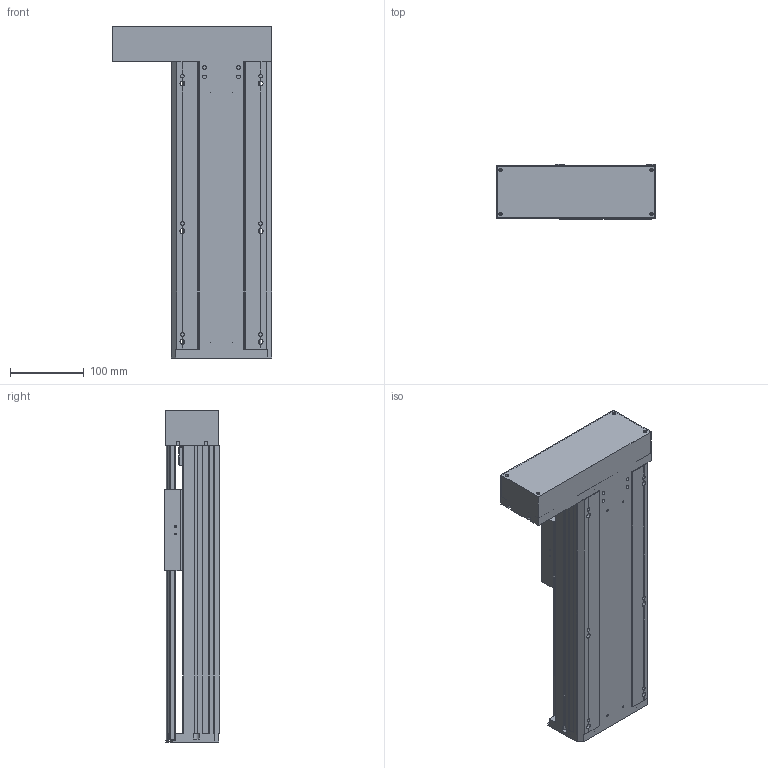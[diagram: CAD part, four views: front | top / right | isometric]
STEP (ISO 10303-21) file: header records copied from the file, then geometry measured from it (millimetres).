
FILE_DESCRIPTION(/* description */ (''),/* implementation_level */ '2;1');
FILE_NAME(/* name */ 'TKA136-FL-200_asm1.stp',/* time_stamp */ '2016-05-07T11:10:02+08:00',/* author */ (''),/* organization */ (''),/* preprocessor_version */ 'ST-DEVELOPER v15',/* originating_system */ 'SIEMENS PLM Software NX 8.5',/* authorisation */ '');
FILE_SCHEMA (('AUTOMOTIVE_DESIGN { 1 0 10303 214 3 1 1 1 }'));
Length unit declared in the file: millimetre
Products named in the file (3): 100-02; 100-01; TKA136-FL-200_asm1
Assembly tree (2 placements, depth 2):
  TKA136-FL-200_asm1
    100-01
    100-02
Bounding box: 216 x 75 x 450 mm (x, y, z)
Volume: 1606599.8 mm3; surface area: 637016.4 mm2
Topology: 2 solids, 12 shells, 854 faces, 2356 edges, 1537 vertices
Faces by surface type: plane 417, cylinder 386, cone 51
Full cylindrical faces by diameter (mm): 2.5 x14, 3 x2, 3.3 x13, 4 x4, 4.2 x6, 4.5 x24, 5 x14, 5.5 x26, 6.6 x10, 8 x20, 10 x9, 10.5 x6, 11 x4, 11.6 x1, 12 x9, 15 x3, 16 x5, 17 x1, 24 x5, 26 x1, 28 x1, 46 x1, 50 x1
Entity records: 27984 total; most frequent: CARTESIAN_POINT 7158, DIRECTION 4338, ORIENTED_EDGE 4002, EDGE_CURVE 2001, AXIS2_PLACEMENT_3D 1635, VERTEX_POINT 1432, EDGE_LOOP 1268, LINE 1068
